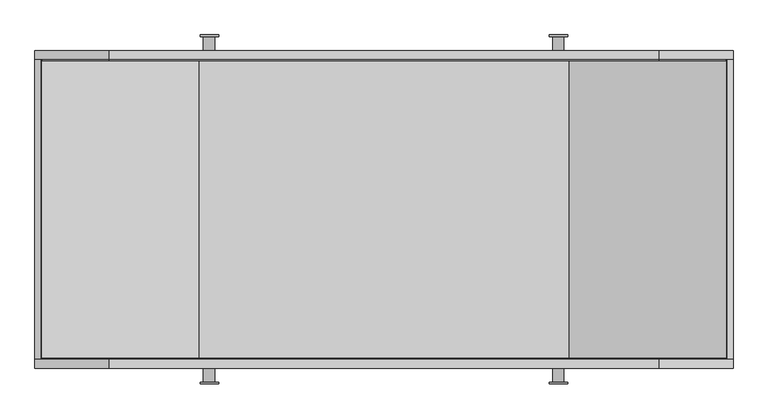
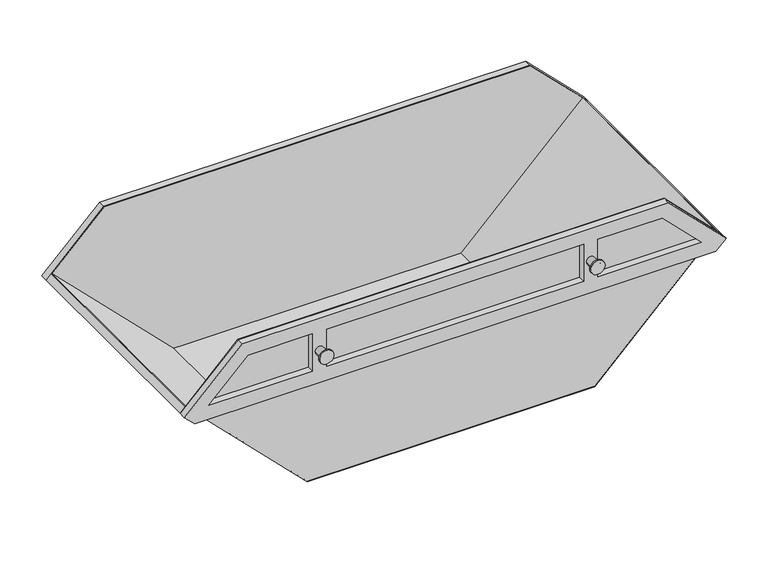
"""IFC4 building model written with IfcOpenShell, lengths in millimetres: proxy geometry, 12_cum_Skip_16496 : 12_cum_Skip_16496."""

from ifc_helpers import new_model, si_unit, point, frame, frame_2d, origin, origin_with_axes, place, context, project, spatial, polyline, circle_curve, trimmed, segment, composite_curve, outline, extrude, source, transform, mapped, element, save


def generic_models_1cc47fd4(model_context):
    return source(origin(), model_context, "Body", "SweptSolid", [
        extrude(outline(polyline([(1000.0, 808.0), (1000.0, -808.0), (-1000.0, -808.0), (-1000.0, 808.0), (1000.0, 808.0)])), origin_with_axes(), (0.0, 0.0, 1.0), 4.0),
        extrude(outline(polyline([(848.0, -1848.0), (0.0, -1000.0), (0.0, 1000.0), (848.0, 1848.0), (1215.0, 1481.0), (1215.0, -1481.0), (848.0, -1848.0)])), frame((0.0, 804.0, 0.0), z_axis=(0.0, 1.0, 0.0), x_axis=(0.0, 0.0, 1.0)), (0.0, 0.0, 1.0), 4.0),
        extrude(outline(polyline([(848.0, -1848.0), (0.0, -1000.0), (0.0, 1000.0), (848.0, 1848.0), (1215.0, 1481.0), (1215.0, -1481.0), (848.0, -1848.0)])), frame((0.0, -808.0, 0.0), z_axis=(0.0, 1.0, 0.0), x_axis=(0.0, 0.0, 1.0)), (0.0, 0.0, 1.0), 4.0),
        extrude(outline(polyline([(850.8284271, 1845.1715729), (4.0, 998.3431458), (0.0, 1000.0), (848.0, 1848.0), (850.8284271, 1845.1715729)])), frame((0.0, -808.0, 0.0), z_axis=(0.0, 1.0, 0.0), x_axis=(0.0, 0.0, 1.0)), (0.0, 0.0, 1.0), 1616.0),
        extrude(outline(polyline([(848.0, -1848.0), (0.0, -1000.0), (4.0, -998.3431458), (850.8284271, -1845.1715729), (848.0, -1848.0)])), frame((0.0, -808.0, 0.0), z_axis=(0.0, 1.0, 0.0), x_axis=(0.0, 0.0, 1.0)), (0.0, 0.0, 1.0), 1616.0),
        extrude(outline(polyline([(0.0, -100.0), (0.0, 0.0), (1616.0, 0.0), (1616.0, -100.0), (0.0, -100.0)])), frame((-1883.3553391, -808.0, 812.6446609), z_axis=(0.7071067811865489, 0.0, 0.7071067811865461), x_axis=(0.0, 1.0, 0.0)), (0.0, 0.0, 1.0), 50.0),
        extrude(outline(polyline([(0.0, -50.0), (0.0, 0.0), (1616.0, 0.0), (1616.0, -50.0), (0.0, -50.0)])), frame((1777.2893219, -808.0, 777.2893219), z_axis=(0.7071067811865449, 0.0, 0.7071067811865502), x_axis=(0.0, 1.0, 0.0)), (0.0, 0.0, 1.0), 100.0),
        extrude(outline(polyline([(1215.0, -1481.0), (812.6446609, -1883.3553391), (741.9339828, -1812.6446609), (741.9339828, 1812.6446609), (812.6446609, 1883.3553391), (1215.0, 1481.0), (1215.0, -1481.0)]), holes=[polyline([(1115.0, -992.6446609), (841.9339828, -992.6446609), (841.9339828, -1712.6446609), (1115.0, -1439.5786438), (1115.0, -992.6446609)]), polyline([(1115.0, -892.6446609), (1115.0, 892.6446609), (841.9339828, 892.6446609), (841.9339828, -892.6446609), (1115.0, -892.6446609)]), polyline([(1115.0, 992.6446609), (1115.0, 1439.5786438), (841.9339828, 1712.6446609), (841.9339828, 992.6446609), (1115.0, 992.6446609)])]), frame((0.0, 808.0, 0.0), z_axis=(0.0, 1.0, 0.0), x_axis=(0.0, 0.0, 1.0)), (0.0, 0.0, 1.0), 50.0),
        extrude(outline(polyline([(1215.0, -1481.0), (812.6446609, -1883.3553391), (741.9339828, -1812.6446609), (741.9339828, 1812.6446609), (812.6446609, 1883.3553391), (1215.0, 1481.0), (1215.0, -1481.0)]), holes=[polyline([(1115.0, -992.6446609), (841.9339828, -992.6446609), (841.9339828, -1712.6446609), (1115.0, -1439.5786438), (1115.0, -992.6446609)]), polyline([(1115.0, -892.6446609), (1115.0, 892.6446609), (841.9339828, 892.6446609), (841.9339828, -892.6446609), (1115.0, -892.6446609)]), polyline([(1115.0, 992.6446609), (1115.0, 1439.5786438), (841.9339828, 1712.6446609), (841.9339828, 992.6446609), (1115.0, 992.6446609)])]), frame((0.0, -858.0, 0.0), z_axis=(0.0, 1.0, 0.0), x_axis=(0.0, 0.0, 1.0)), (0.0, 0.0, 1.0), 50.0),
        extrude(outline(composite_curve([segment(trimmed(circle_curve(frame_2d((979.1312153, -944.3774245)), 30.0), [point((979.1312153, -974.3774245))], [point((979.1312153, -914.3774245))], False, "CARTESIAN"), True, "CONTINUOUS"), segment(trimmed(circle_curve(frame_2d((979.1312153, -944.3774245)), 30.0), [point((979.1312153, -914.3774245))], [point((979.1312153, -974.3774245))], False, "CARTESIAN"), True, "CONTINUOUS")], self_intersect=False)), frame((0.0, -933.0, 0.0), z_axis=(0.0, 1.0, 0.0), x_axis=(0.0, 0.0, 1.0)), (0.0, 0.0, 1.0), 75.0),
        extrude(outline(composite_curve([segment(trimmed(circle_curve(frame_2d((978.4101577, -942.6051433)), 50.0), [point((978.4101577, -992.6051433))], [point((978.4101577, -892.6051433))], False, "CARTESIAN"), True, "CONTINUOUS"), segment(trimmed(circle_curve(frame_2d((978.4101577, -942.6051433)), 50.0), [point((978.4101577, -892.6051433))], [point((978.4101577, -992.6051433))], False, "CARTESIAN"), True, "CONTINUOUS")], self_intersect=False)), frame((0.0, -943.0, 0.0), z_axis=(0.0, 1.0, 0.0), x_axis=(0.0, 0.0, 1.0)), (0.0, 0.0, 1.0), 10.0),
        extrude(outline(composite_curve([segment(trimmed(circle_curve(frame_2d((979.1312153, 940.9118974)), 30.0), [point((979.1312153, 910.9118974))], [point((979.1312153, 970.9118974))], False, "CARTESIAN"), True, "CONTINUOUS"), segment(trimmed(circle_curve(frame_2d((979.1312153, 940.9118974)), 30.0), [point((979.1312153, 970.9118974))], [point((979.1312153, 910.9118974))], False, "CARTESIAN"), True, "CONTINUOUS")], self_intersect=False)), frame((0.0, -933.0, 0.0), z_axis=(0.0, 1.0, 0.0), x_axis=(0.0, 0.0, 1.0)), (0.0, 0.0, 1.0), 75.0),
        extrude(outline(composite_curve([segment(trimmed(circle_curve(frame_2d((978.4101577, 942.6841785)), 50.0), [point((978.4101577, 892.6841785))], [point((978.4101577, 992.6841785))], False, "CARTESIAN"), True, "CONTINUOUS"), segment(trimmed(circle_curve(frame_2d((978.4101577, 942.6841785)), 50.0), [point((978.4101577, 992.6841785))], [point((978.4101577, 892.6841785))], False, "CARTESIAN"), True, "CONTINUOUS")], self_intersect=False)), frame((0.0, -943.0, 0.0), z_axis=(0.0, 1.0, 0.0), x_axis=(0.0, 0.0, 1.0)), (0.0, 0.0, 1.0), 10.0),
        extrude(outline(composite_curve([segment(trimmed(circle_curve(frame_2d((979.1312153, -944.3774245)), 30.0), [point((979.1312153, -974.3774245))], [point((979.1312153, -914.3774245))], False, "CARTESIAN"), True, "CONTINUOUS"), segment(trimmed(circle_curve(frame_2d((979.1312153, -944.3774245)), 30.0), [point((979.1312153, -914.3774245))], [point((979.1312153, -974.3774245))], False, "CARTESIAN"), True, "CONTINUOUS")], self_intersect=False)), frame((0.0, 858.0, 0.0), z_axis=(0.0, 1.0, 0.0), x_axis=(0.0, 0.0, 1.0)), (0.0, 0.0, 1.0), 75.0),
        extrude(outline(composite_curve([segment(trimmed(circle_curve(frame_2d((978.4101577, -942.6051433)), 50.0), [point((978.4101577, -992.6051433))], [point((978.4101577, -892.6051433))], False, "CARTESIAN"), True, "CONTINUOUS"), segment(trimmed(circle_curve(frame_2d((978.4101577, -942.6051433)), 50.0), [point((978.4101577, -892.6051433))], [point((978.4101577, -992.6051433))], False, "CARTESIAN"), True, "CONTINUOUS")], self_intersect=False)), frame((0.0, 933.0, 0.0), z_axis=(0.0, 1.0, 0.0), x_axis=(0.0, 0.0, 1.0)), (0.0, 0.0, 1.0), 10.0),
        extrude(outline(composite_curve([segment(trimmed(circle_curve(frame_2d((979.1312153, 940.9118974)), 30.0), [point((979.1312153, 910.9118974))], [point((979.1312153, 970.9118974))], False, "CARTESIAN"), True, "CONTINUOUS"), segment(trimmed(circle_curve(frame_2d((979.1312153, 940.9118974)), 30.0), [point((979.1312153, 970.9118974))], [point((979.1312153, 910.9118974))], False, "CARTESIAN"), True, "CONTINUOUS")], self_intersect=False)), frame((0.0, 858.0, 0.0), z_axis=(0.0, 1.0, 0.0), x_axis=(0.0, 0.0, 1.0)), (0.0, 0.0, 1.0), 75.0),
        extrude(outline(composite_curve([segment(trimmed(circle_curve(frame_2d((978.4101577, 942.6841785)), 50.0), [point((978.4101577, 892.6841785))], [point((978.4101577, 992.6841785))], False, "CARTESIAN"), True, "CONTINUOUS"), segment(trimmed(circle_curve(frame_2d((978.4101577, 942.6841785)), 50.0), [point((978.4101577, 992.6841785))], [point((978.4101577, 892.6841785))], False, "CARTESIAN"), True, "CONTINUOUS")], self_intersect=False)), frame((0.0, 933.0, 0.0), z_axis=(0.0, 1.0, 0.0), x_axis=(0.0, 0.0, 1.0)), (0.0, 0.0, 1.0), 10.0),
    ])


if __name__ == "__main__":
    model = new_model("IFC4")
    model_context = context("Model", 3, world=origin())
    ifc_project = project(units=[si_unit("LENGTHUNIT", "METRE", prefix="MILLI")], contexts=[model_context])
    site = spatial("IfcSite", under=ifc_project)
    building = spatial("IfcBuilding", under=site)
    placement = place(None, origin())
    generic_models_shape = generic_models_1cc47fd4(model_context)
    element("IfcBuildingElementProxy", 1, Name="12_cum_Skip_16496 : 12_cum_Skip_16496", ObjectType="12_cum_Skip_16496 : 12_cum_Skip_16496", at=placement, inside=building, context=model_context, shape_type="MappedRepresentation", body=[
        mapped(generic_models_shape, transform((0.0, 0.0, 0.0), x_axis=(1.0, 0.0, 0.0), y_axis=(0.0, 1.0, 0.0), z_axis=(0.0, 0.0, 1.0))),
    ])
    save(model, "model.ifc")
